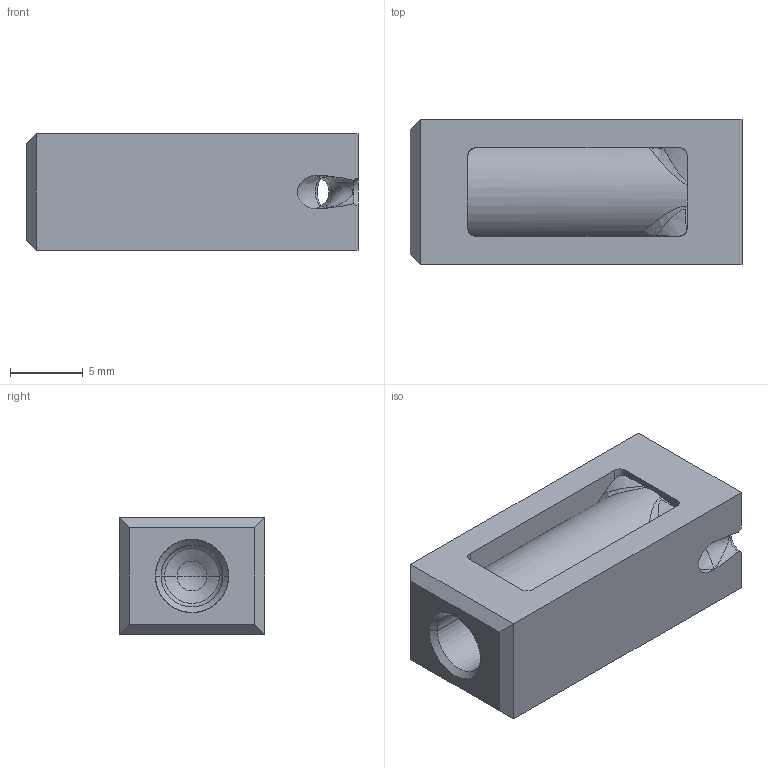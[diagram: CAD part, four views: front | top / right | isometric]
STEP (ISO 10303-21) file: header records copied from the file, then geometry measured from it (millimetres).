
FILE_DESCRIPTION((''),'2;1');
FILE_NAME('TGS10-16-S1','2004-03-24T',('tmeister'),(''),'PRO/ENGINEER BY PARAMETRIC TECHNOLOGY CORPORATION, 2002270','PRO/ENGINEER BY PARAMETRIC TECHNOLOGY CORPORATION, 2002270','');
FILE_SCHEMA(('CONFIG_CONTROL_DESIGN'));
Length unit declared in the file: millimetre
Products named in the file (1): TGS10-16-S1
Bounding box: 22.8 x 10 x 8 mm (x, y, z)
Volume: 1365.8 mm3; surface area: 1594.1 mm2
Topology: 1 solids, 2 shells, 71 faces, 249 edges, 180 vertices
Faces by surface type: plane 22, bspline 20, cone 13, cylinder 11, sphere 3, torus 2
Entity records: 5016 total; most frequent: CARTESIAN_POINT 3239, ORIENTED_EDGE 350, DIRECTION 275, EDGE_CURVE 177, B_SPLINE_CURVE_WITH_KNOTS 115, VERTEX_POINT 111, AXIS2_PLACEMENT_3D 93, VECTOR 89
